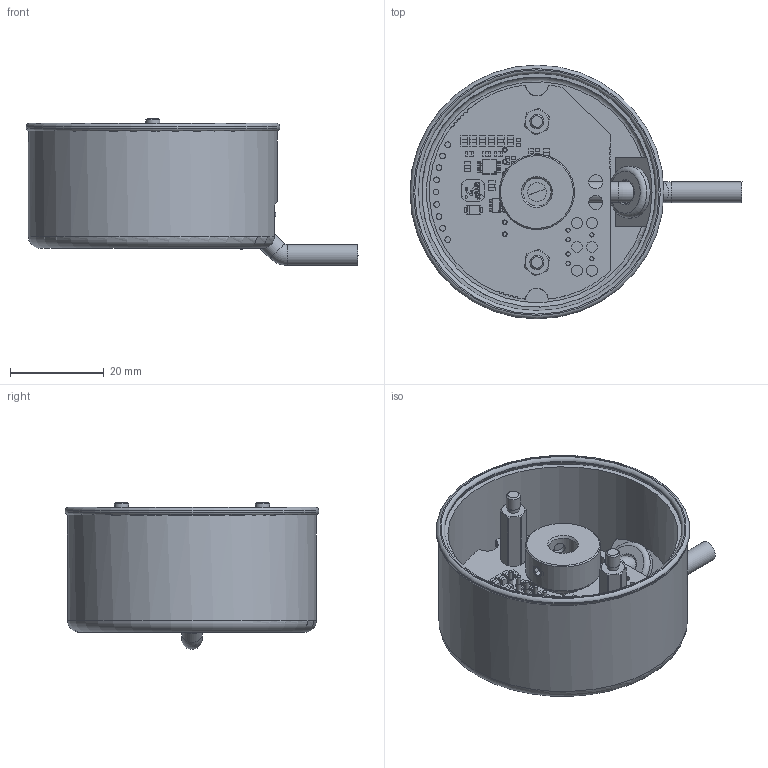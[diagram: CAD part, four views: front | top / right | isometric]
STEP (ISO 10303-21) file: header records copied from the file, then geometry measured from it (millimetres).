
FILE_DESCRIPTION(/* description */ ('Unknown'),/* implementation_level */ '2;1');
FILE_NAME(/* name */ 'EMI_30_M_ORION2',/* time_stamp */ '2021-10-22T12:41:34+02:00',/* author */ ('Unknown'),/* organization */ ('Unknown'),/* preprocessor_version */ 'ST-DEVELOPER v16.7',/* originating_system */ 'DEX',/* authorisation */ $);
FILE_SCHEMA (('AUTOMOTIVE_DESIGN {1 0 10303 214 3 1 1}'));
Length unit declared in the file: millimetre
Products named in the file (1): EMI_30_M_ORION2
Bounding box: 70.65 x 54.02 x 31.24 mm (x, y, z)
Volume: 17023.3 mm3; surface area: 21915 mm2
Topology: 107 solids, 108 shells, 2670 faces, 6769 edges, 4346 vertices
Faces by surface type: plane 2062, cylinder 460, cone 64, torus 58, bspline 14, sphere 12
Full cylindrical faces by diameter (mm): 0.289 x1, 0.33 x1, 0.34 x1, 0.538 x1, 0.8 x8, 0.888 x6, 1 x16, 1.2 x9, 2.362 x4, 2.459 x6, 2.5 x2, 2.9 x2, 3 x12, 3.2 x1, 3.5 x2, 4 x1, 4.4 x3, 5 x1, 6 x5, 7 x2, 8 x1, 9 x2, 11 x2, 16 x1, 49 x1, 50.5 x1, 53 x1, 54.02 x1
Entity records: 79373 total; most frequent: CARTESIAN_POINT 14860, ORIENTED_EDGE 13090, DIRECTION 12733, EDGE_CURVE 6546, LINE 5345, VECTOR 5345, VERTEX_POINT 4308, AXIS2_PLACEMENT_3D 3694
